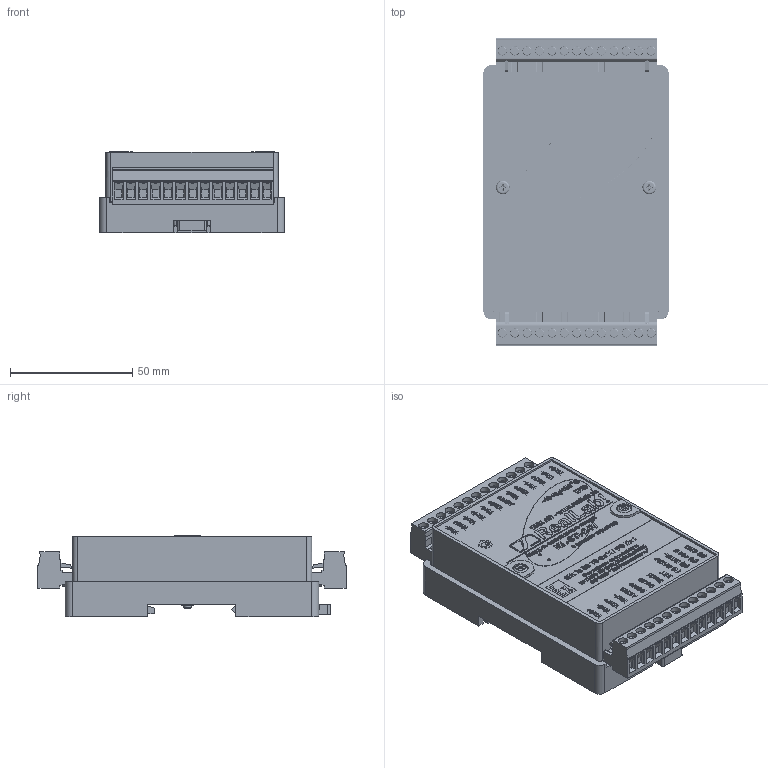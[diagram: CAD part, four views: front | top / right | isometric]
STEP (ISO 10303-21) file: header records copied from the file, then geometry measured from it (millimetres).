
FILE_DESCRIPTION(('STEP AP214'), '1');
FILE_NAME('NL-8TI-24V', '', ('UNSPECIFIED'), ('UNSPECIFIED'), 'C3D Converter', 'C3D Toolkit', '');
FILE_SCHEMA(('AUTOMOTIVE_DESIGN { 1 0 10303 214 3 1 1}'));
Length unit declared in the file: millimetre
Bounding box: 75.8 x 126.21 x 33.5 mm (x, y, z)
Volume: 85180.9 mm3; surface area: 90693.6 mm2
Topology: 72 solids, 72 shells, 7418 faces, 20635 edges, 13827 vertices
Faces by surface type: plane 3898, extrusion 2829, cylinder 504, torus 118, cone 68, bspline 1
Full cylindrical faces by diameter (mm): 1 x2, 1.4 x26, 2.5 x4, 3 x30, 3.38 x2, 3.6 x4, 3.95 x26, 4 x2, 5.6 x2, 6.3 x2, 6.4 x2, 8 x2
Entity records: 352188 total; most frequent: CARTESIAN_POINT 112597, ORIENTED_EDGE 40896, DIRECTION 28176, EDGE_CURVE 20448, VECTOR 15166, VERTEX_POINT 13825, LINE 12337, B_SPLINE_CURVE_WITH_KNOTS 8991
